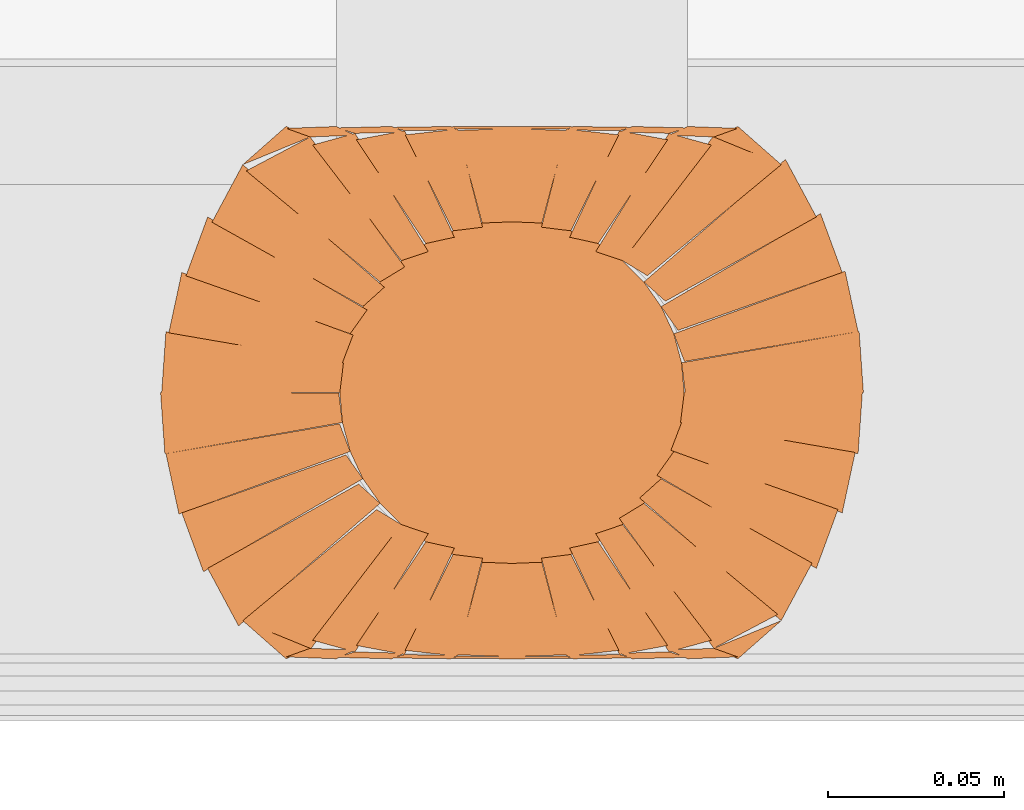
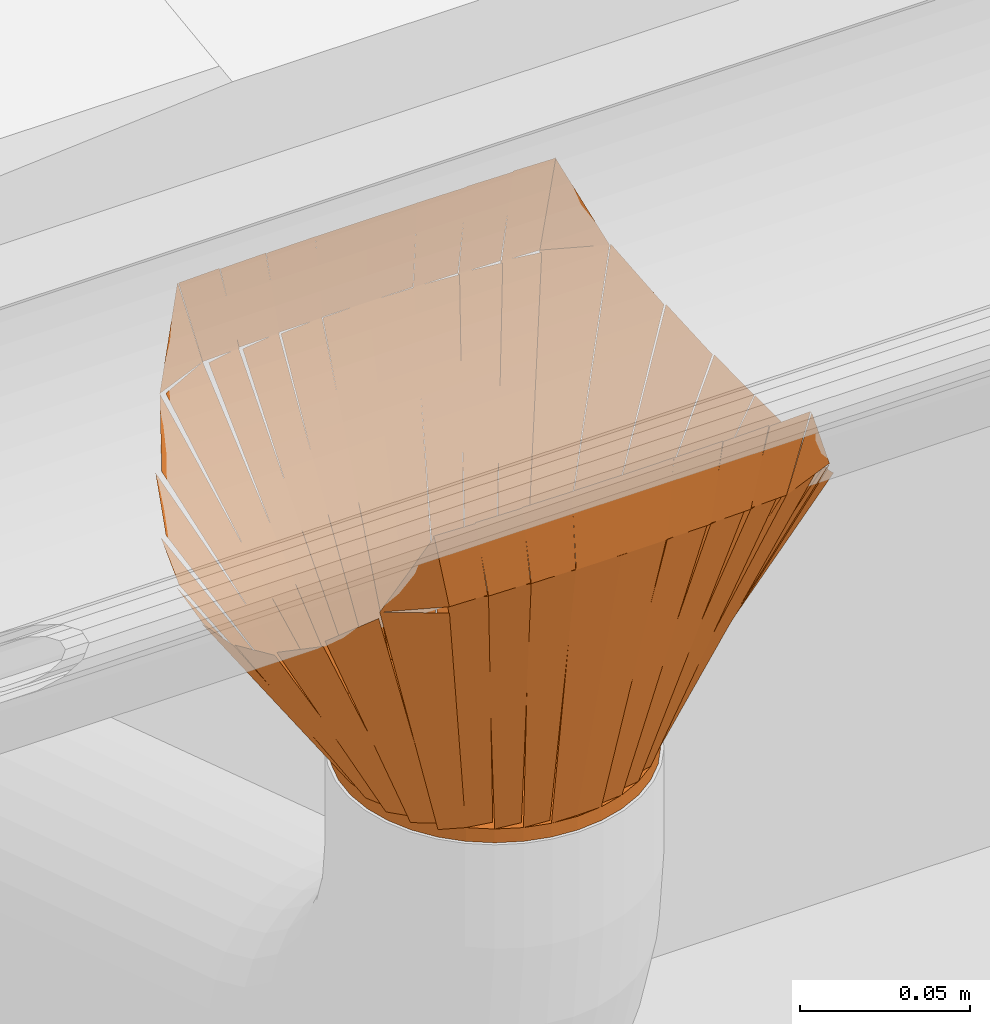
# One storey, part 28 of 43: 1 proxy.
"""IFC2X3 building model written with IfcOpenShell, lengths in millimetres."""

from ifc_helpers import new_model, si_unit, frame, origin_with_axes, place, context, project, spatial, faceted_brep, element, save


model = new_model("IFC2X3")

# Units and contexts
model_context = context("Model", 3, world=origin_with_axes())
ifc_project = project(units=[si_unit("LENGTHUNIT", "METRE", prefix="MILLI")], contexts=[model_context])

# Site, building, storey
site_placement = place(None, origin_with_axes())
site = spatial("IfcSite", under=ifc_project, at=site_placement, Name="Site", CompositionType="ELEMENT")
building_placement = place(site_placement, origin_with_axes())
building = spatial("IfcBuilding", under=site, at=building_placement, Name="?", CompositionType="ELEMENT")
storey_placement = place(building_placement, frame((0.0, 0.0, 5938.0), z_axis=(0.0, 0.0, 1.0), x_axis=(1.0, 0.0, 0.0)))
storey = spatial("IfcBuildingStorey", under=building, at=storey_placement, Name="Dachgeschoß", CompositionType="ELEMENT", Elevation=5938.0)

# Proxy
proxy_placement = place(None, origin_with_axes())
element("IfcBuildingElementProxy", 1, at=proxy_placement, inside=storey, Name="Dach02_Sump#001", ObjectType="sump", CompositionType="ELEMENT", context=model_context, shape_type="Brep", body=[
    faceted_brep([(9665.0, -7677.009765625, 6505.79443359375), (9715.69909783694, -7676.96774953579, 6580.93962337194), (9714.48080167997, -7694.37456599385, 6582.73663250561), (9663.95469623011, -7685.47654971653, 6505.99742441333), (9664.255859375, -7685.51904296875, 6505.79443359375), (9713.66477416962, -7694.02260897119, 6583.29570176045), (9709.96955863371, -7711.21224305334, 6588.73663108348), (9661.22887453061, -7693.41680896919, 6506.3535043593), (9662.044921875, -7693.76904296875, 6505.79443359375), (9708.7674041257, -7710.25000875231, 6589.59595129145), (9702.6025228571, -7727.01004264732, 6599.73663675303), (9657.23330283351, -7700.54800840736, 6506.65374850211), (9658.435546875, -7701.509765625, 6505.79443359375), (9701.3921029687, -7725.50609625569, 6600.66517917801), (9692.60474870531, -7741.88856568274, 6615.736631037), (9652.32580064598, -7707.00269628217, 6506.72298136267), (9653.5361328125, -7708.5068359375, 6505.79443359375), (9691.62805986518, -7740.11947794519, 6616.57727050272), (9673.42483265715, -7749.76293508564, 6615.73663044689), (9646.52025953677, -7712.77687912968, 6506.63507364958), (9647.4970703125, -7714.54638671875, 6505.79443359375), (9672.7389179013, -7747.47369281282, 6616.57347435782), (9660.66917038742, -7750.78708786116, 6615.73663420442), (9639.81401771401, -7717.15619170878, 6506.63127382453), (9640.5, -7719.4453125, 6505.79443359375), (9660.30450052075, -7748.96330484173, 6616.28910531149), (9646.55519984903, -7751.54171179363, 6615.7366356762), (9632.39480121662, -7721.2313055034, 6506.3469032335), (9632.7587890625, -7723.0546875, 6505.79443359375), (9646.42091446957, -7750.37303624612, 6616.04275099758), (9631.51308903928, -7752.00358695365, 6615.73663149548), (9624.37451405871, -7724.09703670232, 6506.10055309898), (9624.5087890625, -7725.265625, 6505.79443359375), (9631.4982433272, -7751.6022388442, 6615.83370153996), (9615.99998919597, -7752.1594249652, 6615.7366309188), (9615.98494357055, -7725.60843885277, 6505.89150420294), (9607.4912109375, -7725.265625, 6505.79443359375), (9616.01505642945, -7725.60843885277, 6505.89150420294), (9616.00001080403, -7752.1594249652, 6615.7366309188), (9600.5017566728, -7751.6022388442, 6615.83370153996), (9599.2412109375, -7723.0546875, 6505.79443359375), (9607.62548594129, -7724.09703670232, 6506.10055309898), (9600.48691096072, -7752.00358695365, 6615.73663149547), (9585.57908553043, -7750.37303624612, 6616.04275099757), (9591.5, -7719.4453125, 6505.79443359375), (9599.60519878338, -7721.2313055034, 6506.3469032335), (9585.44480015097, -7751.54171179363, 6615.7366356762), (9571.69549947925, -7748.96330484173, 6616.28910531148), (9584.5029296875, -7714.54638671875, 6505.79443359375), (9592.18598228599, -7717.15619170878, 6506.63127382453), (9571.33082961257, -7750.78708786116, 6615.73663420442), (9559.2610820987, -7747.47369281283, 6616.57347435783), (9584.5029296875, -7714.54638671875, 6505.79443359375), (9557.59835656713, -7751.53244267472, 6614.89599039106), (9539.39512935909, -7741.88898553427, 6615.73663044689), (9577.48705641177, -7710.27634352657, 6504.95379353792), (9578.4638671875, -7708.5068359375, 6505.79443359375), (9538.18491912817, -7743.39270533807, 6614.80808326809), (9529.39756486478, -7727.01023591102, 6599.73663140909), (9572.35412095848, -7703.01390528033, 6504.86588582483), (9573.564453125, -7701.509765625, 6505.79443359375), (9528.19523310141, -7727.97179986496, 6598.87732184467), (9522.03035183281, -7711.21176596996, 6588.7366363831), (9568.75283408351, -7694.7308001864, 6504.93511868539), (9569.955078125, -7693.76904296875, 6505.79443359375), (9521.21438791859, -7711.56448226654, 6588.17755842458), (9517.51918083, -7694.37494297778, 6582.7366349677), (9566.92808542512, -7685.87128188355, 6505.23535685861), (9567.744140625, -7685.51904296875, 6505.79443359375), (9517.21804143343, -7694.4171582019, 6582.5336459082), (9515.99974216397, -7677.01024322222, 6580.73663465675), (9566.69883993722, -7677.0522587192, 6505.59144481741), (9567.0, -7677.009765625, 6505.79443359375), (9516.30089679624, -7677.0517809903, 6580.93961803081), (9517.51919943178, -7659.64496540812, 6582.73663139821), (9568.04529745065, -7668.54308088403, 6505.99742015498), (9567.744140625, -7668.50146484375, 6505.79443359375), (9518.33524330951, -7659.99780535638, 6583.29571912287), (9522.03044049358, -7642.80816491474, 6588.73663588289), (9570.77114366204, -7660.60360535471, 6506.35351666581), (9569.955078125, -7660.2509765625, 6505.79443359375), (9523.23262029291, -7643.77001649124, 6589.59596421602), (9529.39737883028, -7627.00997522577, 6599.73663640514), (9574.76661936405, -7653.47201716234, 6506.65376173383), (9573.564453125, -7652.509765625, 6505.79443359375), (9530.60788212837, -7628.5134274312, 6600.66517290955), (9539.39525411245, -7612.13106388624, 6615.73663441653), (9579.6742815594, -7647.01682850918, 6506.72297220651), (9578.4638671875, -7645.51318359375, 6505.79443359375), (9540.37183544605, -7613.90061803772, 6616.5772624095), (9558.57506735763, -7604.25708315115, 6615.7366306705), (9585.47973513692, -7641.24311841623, 6506.63506533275), (9584.5029296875, -7639.4736328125, 6505.79443359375), (9559.260981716, -7606.54633724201, 6616.5734784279), (9571.3308295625, -7603.23293151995, 6615.73663476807), (9592.18598202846, -7636.86383842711, 6506.63127727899), (9591.5, -7634.57470703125, 6505.79443359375), (9571.69549947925, -7605.05671468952, 6616.28910531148), (9585.44480015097, -7602.47830773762, 6615.7366356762), (9599.60519878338, -7632.78871402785, 6506.3469032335), (9599.2412109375, -7630.96533203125, 6505.79443359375), (9585.57908553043, -7603.64698328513, 6616.04275099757), (9600.48691096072, -7602.0164325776, 6615.73663149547), (9607.62548594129, -7629.92298282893, 6506.10055309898), (9607.4912109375, -7628.75439453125, 6505.79443359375), (9600.5017566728, -7602.41778068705, 6615.83370153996), (9616.00001080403, -7601.86059456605, 6615.7366309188), (9616.01505642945, -7628.41158067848, 6505.89150420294), (9624.5087890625, -7628.75439453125, 6505.79443359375), (9615.98504331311, -7628.41158169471, 6505.89150445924), (9616.00008910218, -7601.86059390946, 6615.73663117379), (9631.49824324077, -7602.41778105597, 6615.83370203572), (9632.7587890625, -7630.96533203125, 6505.79443359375), (9624.3744153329, -7629.9229761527, 6506.10055124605), (9631.51298902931, -7602.01643257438, 6615.73663560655), (9646.42081592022, -7603.64697661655, 6616.04275325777), (9640.5, -7634.57470703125, 6505.79443359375), (9632.39481965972, -7632.78876123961, 6506.34688478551), (9646.55510018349, -7602.47840597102, 6615.73663578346), (9660.30442050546, -7605.05676005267, 6616.28908697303), (9647.4970703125, -7639.4736328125, 6505.79443359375), (9639.81399243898, -7636.86378505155, 6506.63129507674), (9660.66907036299, -7603.23293253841, 6615.73663264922), (9672.73889256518, -7606.5463849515, 6616.57349410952), (9647.4970703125, -7639.4736328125, 6505.79443359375), (9674.40164343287, -7602.48757685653, 6614.89599039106), (9692.6048706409, -7612.13103399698, 6615.73663044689), (9654.51294358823, -7643.74367600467, 6504.95379353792), (9653.5361328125, -7645.51318359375, 6505.79443359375), (9693.81508590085, -7610.6272951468, 6614.80807921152), (9702.60243226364, -7627.00968397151, 6599.73663630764), (9659.64588720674, -7651.00609461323, 6504.86587603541), (9658.435546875, -7652.509765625, 6505.79443359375), (9703.804754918, -7626.04764707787, 6598.87732511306), (9709.96954786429, -7642.80766642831, 6588.73663091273), (9663.24715398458, -7659.28874634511, 6504.93512814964), (9662.044921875, -7660.2509765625, 6505.79443359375), (9710.78552724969, -7642.45543169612, 6588.17755185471), (9714.48082378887, -7659.64507657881, 6582.73663560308), (9665.07192492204, -7668.14873100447, 6505.23534983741), (9664.255859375, -7668.5009765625, 6505.79443359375), (9714.78195856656, -7659.60286132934, 6582.5336459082), (9716.00025783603, -7677.00977630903, 6580.73663465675), (9665.30116006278, -7676.96776081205, 6505.59144481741), (9673.4248046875, -7749.7626953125, 6615.73681640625), (9692.60430531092, -7741.88879484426, 6615.73681640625), (9680.27870485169, -7752.74999532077, 6645.00681565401), (9666.0, -7752.75, 6645.00634765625), (9660.64840950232, -7750.25130511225, 6615.78586307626), (9673.42489986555, -7749.76269994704, 6615.73634729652), (9680.25850914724, -7752.21440517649, 6645.05586343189), (9650.2021484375, -7752.75, 6645.00634765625), (9646.54533147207, -7751.14458950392, 6615.7593924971), (9660.66884830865, -7750.78689999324, 6615.7363475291), (9665.99013123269, -7752.35298953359, 6645.02939262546), (9633.365234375, -7752.75, 6645.00634765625), (9631.51020009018, -7751.76003104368, 6615.74481863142), (9646.55563432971, -7751.54160002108, 6615.73634744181), (9650.19890002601, -7752.506231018, 6645.01481884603), (9616.0, -7752.75, 6645.00634765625), (9615.99961128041, -7752.0772640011, 6615.73823528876), (9631.51329980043, -7752.00380000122, 6615.73634736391), (9633.36441105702, -7752.66786399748, 6645.00823558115), (9600.486328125, -7752.00390625, 6615.73681640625), (9616.00001664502, -7752.07737024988, 6615.73870433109), (9615.99962792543, -7752.75010624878, 6645.00681669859), (9598.63521686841, -7752.66797024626, 6645.00870462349), (9585.4443359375, -7751.54150390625, 6615.73681640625), (9600.48977017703, -7751.75993492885, 6615.74528759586), (9598.63473589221, -7752.74990388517, 6645.00681662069), (9581.8010702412, -7752.50613490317, 6645.01528781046), (9571.3310546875, -7750.787109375, 6615.73681640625), (9585.45457152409, -7751.14479888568, 6615.75986137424), (9581.79775455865, -7752.75020938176, 6645.0068165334), (9566.00977176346, -7752.35319891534, 6645.02986150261), (9558.5751953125, -7749.7626953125, 6615.73681640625), (9571.35168575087, -7750.25130223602, 6615.7863320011), (9566.00009521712, -7752.74999529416, 6645.00681666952), (9551.74168600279, -7752.21440225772, 6645.05633226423), (9539.3955078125, -7741.888671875, 6615.73681640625), (9558.57500843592, -7749.76257234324, 6615.73681640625), (9551.72120828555, -7752.74987219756, 6645.00681601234), (9558.5751953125, -7604.25732421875, 6615.73681640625), (9539.39569539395, -7612.13132437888, 6615.73681640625), (9551.72139542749, -7601.27002445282, 6645.00681658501), (9566.0, -7601.27001953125, 6645.00634765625), (9571.35159032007, -7603.76871232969, 6615.78586309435), (9558.57500017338, -7604.25731946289, 6615.73634755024), (9551.74149077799, -7601.80561239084, 6645.05586320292), (9581.7978515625, -7601.27001953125, 6645.00634765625), (9585.45466852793, -7602.87543002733, 6615.75939249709), (9571.33115169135, -7603.23311953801, 6615.7363475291), (9566.00986876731, -7601.66702999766, 6645.02939262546), (9598.634765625, -7601.27001953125, 6645.00634765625), (9600.48989991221, -7602.25998782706, 6615.74481858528), (9585.44446566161, -7602.47841953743, 6615.73634741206), (9581.80119996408, -7601.51378783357, 6645.01481882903), (9616.0, -7601.27001953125, 6645.00634765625), (9616.00038871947, -7601.94275574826, 6615.73823528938), (9600.48670020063, -7602.01621952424, 6615.73634735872), (9598.63548894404, -7601.35215575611, 6645.00823558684), (9631.513671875, -7602.01611328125, 6615.73681640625), (9616.00008335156, -7601.94264953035, 6615.73870433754), (9616.00047207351, -7601.26991325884, 6645.00681670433), (9633.36488312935, -7601.35204951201, 6645.00870463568), (9646.5546875, -7602.478515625, 6615.73681640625), (9631.50925326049, -7602.26008460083, 6615.74528760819), (9633.36438754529, -7601.27011567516, 6645.00681667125), (9650.19805319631, -7601.51388465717, 6645.01528787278), (9660.6689453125, -7603.23291015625, 6615.73681640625), (9646.54542844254, -7602.87521945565, 6615.75986132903), (9650.20234541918, -7601.26981014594, 6645.00681662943), (9665.99022824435, -7601.66681942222, 6645.02986155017), (9673.4248046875, -7604.25732421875, 6615.73681640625), (9660.64821454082, -7603.76871708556, 6615.78633195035), (9665.99980486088, -7601.27002428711, 6645.00681651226), (9680.2583140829, -7601.8056171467, 6645.05633205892), (9692.6044921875, -7612.13134765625, 6615.73681640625), (9673.42499156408, -7604.25744718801, 6615.73681640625), (9680.27879171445, -7601.27014733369, 6645.00681601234), (9665.0, -7677.009765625, 6500.82421875), (9665.0, -7677.009765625, 6505.79421875), (9664.25559997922, -7685.51856580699, 6505.79421875), (9664.25559997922, -7685.51856580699, 6500.82421875), (9664.255859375, -7685.51904296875, 6500.82421875), (9664.255859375, -7685.51904296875, 6505.79421875), (9662.04515947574, -7693.7692429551, 6505.79421875), (9662.04515947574, -7693.7692429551, 6500.82421875), (9662.044921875, -7693.76904296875, 6500.82421875), (9662.044921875, -7693.76904296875, 6505.79421875), (9658.43522182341, -7701.51004288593, 6505.79421875), (9658.43522182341, -7701.51004288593, 6500.82421875), (9658.435546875, -7701.509765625, 6500.82421875), (9658.435546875, -7701.509765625, 6505.79421875), (9653.53654676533, -7708.50636547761, 6505.79421875), (9653.53654676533, -7708.50636547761, 6500.82421875), (9653.5361328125, -7708.5068359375, 6500.82421875), (9653.5361328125, -7708.5068359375, 6505.79421875), (9647.49653291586, -7714.54643583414, 6505.79421875), (9647.49653291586, -7714.54643583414, 6500.82421875), (9647.4970703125, -7714.54638671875, 6500.82421875), (9647.4970703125, -7714.54638671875, 6505.79421875), (9640.50047045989, -7719.44538682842, 6505.79421875), (9640.50047045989, -7719.44538682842, 6500.82421875), (9640.5, -7719.4453125, 6500.82421875), (9640.5, -7719.4453125, 6505.79421875), (9632.75900008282, -7723.05501255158, 6505.79421875), (9632.75900008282, -7723.05501255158, 6500.82421875), (9632.7587890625, -7723.0546875, 6500.82421875), (9632.7587890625, -7723.0546875, 6505.79421875), (9624.50858907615, -7725.26538739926, 6505.79421875), (9624.50858907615, -7725.26538739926, 6500.82421875), (9624.5087890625, -7725.265625, 6500.82421875), (9624.5087890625, -7725.265625, 6505.79421875), (9615.99998888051, -7726.01002502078, 6505.79421875), (9615.99998888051, -7726.01002502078, 6500.82421875), (9616.0, -7726.009765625, 6500.82421875), (9616.0, -7726.009765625, 6505.79421875), (9607.49119981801, -7725.26536560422, 6505.79421875), (9607.49119981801, -7725.26536560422, 6500.82421875), (9607.4912109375, -7725.265625, 6500.82421875), (9607.4912109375, -7725.265625, 6505.79421875), (9599.24101095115, -7723.05492510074, 6505.79421875), (9599.24101095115, -7723.05492510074, 6500.82421875), (9599.2412109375, -7723.0546875, 6500.82421875), (9599.2412109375, -7723.0546875, 6505.79421875), (9591.50021102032, -7719.44498744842, 6505.79421875), (9591.50021102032, -7719.44498744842, 6500.82421875), (9591.5, -7719.4453125, 6500.82421875), (9591.5, -7719.4453125, 6505.79421875), (9584.50340014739, -7714.54631239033, 6505.79421875), (9584.50340014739, -7714.54631239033, 6500.82421875), (9584.5029296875, -7714.54638671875, 6500.82421875), (9584.5029296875, -7714.54638671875, 6505.79421875), (9578.46332979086, -7708.50678682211, 6505.79421875), (9578.46332979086, -7708.50678682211, 6500.82421875), (9578.4638671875, -7708.5068359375, 6500.82421875), (9578.4638671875, -7708.5068359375, 6505.79421875), (9573.56486707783, -7701.51023608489, 6505.79421875), (9573.56486707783, -7701.51023608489, 6500.82421875), (9573.564453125, -7701.509765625, 6500.82421875), (9573.564453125, -7701.509765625, 6505.79421875), (9569.95475307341, -7693.76876570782, 6505.79421875), (9569.95475307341, -7693.76876570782, 6500.82421875), (9569.955078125, -7693.76904296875, 6500.82421875), (9569.955078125, -7693.76904296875, 6505.79421875), (9567.74437822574, -7685.5188429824, 6505.79421875), (9567.74437822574, -7685.5188429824, 6500.82421875), (9567.744140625, -7685.51904296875, 6500.82421875), (9567.744140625, -7685.51904296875, 6505.79421875), (9566.99974060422, -7677.01024278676, 6505.79421875), (9566.99974060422, -7677.01024278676, 6500.82421875), (9567.0, -7677.009765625, 6500.82421875), (9567.0, -7677.009765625, 6505.79421875), (9567.74439999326, -7668.50106570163, 6505.79421875), (9567.74439999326, -7668.50106570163, 6500.82421875), (9567.744140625, -7668.50146484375, 6500.82421875), (9567.744140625, -7668.50146484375, 6505.79421875), (9569.95484057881, -7660.25116493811, 6505.79421875), (9569.95484057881, -7660.25116493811, 6500.82421875), (9569.955078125, -7660.2509765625, 6500.82421875), (9569.955078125, -7660.2509765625, 6505.79421875), (9573.56467809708, -7652.509976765, 6505.79421875), (9573.56467809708, -7652.509976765, 6500.82421875), (9573.564453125, -7652.509765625, 6500.82421875), (9573.564453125, -7652.509765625, 6505.79421875), (9578.4635533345, -7645.51316562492, 6505.79421875), (9578.4635533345, -7645.51316562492, 6500.82421875), (9578.4638671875, -7645.51318359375, 6500.82421875), (9578.4638671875, -7645.51318359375, 6505.79421875), (9584.50346708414, -7639.47358369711, 6505.79421875), (9584.50346708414, -7639.47358369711, 6500.82421875), (9584.5029296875, -7639.4736328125, 6500.82421875), (9584.5029296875, -7639.4736328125, 6505.79421875), (9591.49952954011, -7634.57463270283, 6505.79421875), (9591.49952954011, -7634.57463270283, 6500.82421875), (9591.5, -7634.57470703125, 6500.82421875), (9591.5, -7634.57470703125, 6505.79421875), (9599.24099991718, -7630.96500697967, 6505.79421875), (9599.24099991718, -7630.96500697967, 6500.82421875), (9599.2412109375, -7630.96533203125, 6500.82421875), (9599.2412109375, -7630.96533203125, 6505.79421875), (9607.49141092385, -7628.75463213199, 6505.79421875), (9607.49141092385, -7628.75463213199, 6500.82421875), (9607.4912109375, -7628.75439453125, 6500.82421875), (9607.4912109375, -7628.75439453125, 6505.79421875), (9616.00001111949, -7628.00999451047, 6505.79421875), (9616.00001111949, -7628.00999451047, 6500.82421875), (9616.0, -7628.009765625, 6500.82421875), (9616.0, -7628.009765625, 6505.79421875), (9624.50869992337, -7628.75416561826, 6505.79421875), (9624.50869992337, -7628.75416561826, 6500.82421875), (9624.5087890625, -7628.75439453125, 6500.82421875), (9624.50877656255, -7628.75444118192, 6505.79421874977), (9632.75908919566, -7630.96509455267, 6505.79421875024), (9632.75907669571, -7630.96504120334, 6500.82421874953), (9632.7587890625, -7630.96484375, 6500.82421875), (9632.75880821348, -7630.96490268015, 6505.79421875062), (9640.49978917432, -7634.57454363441, 6505.79421875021), (9640.49980832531, -7634.57450256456, 6500.82421875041), (9640.5, -7634.57470703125, 6500.82421875), (9640.5, -7634.57470703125, 6505.79421875), (9647.49660000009, -7639.47380724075, 6505.79421875), (9647.49660000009, -7639.47380724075, 6500.82421875), (9647.4970703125, -7639.4736328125, 6500.82421875), (9647.4970703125, -7639.4736328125, 6505.79421875), (9653.53667020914, -7645.51323270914, 6505.79421875), (9653.53667020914, -7645.51323270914, 6500.82421875), (9653.5361328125, -7645.51318359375, 6500.82421875), (9653.5361328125, -7645.51318359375, 6505.79421875), (9658.43513292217, -7652.50978344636, 6505.79421875), (9658.43513292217, -7652.50978344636, 6500.82421875), (9658.435546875, -7652.509765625, 6500.82421875), (9658.435546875, -7652.509765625, 6505.79421875), (9662.04524692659, -7660.25076554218, 6505.79421875), (9662.04524692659, -7660.25076554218, 6500.82421875), (9662.044921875, -7660.2509765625, 6500.82421875), (9662.044921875, -7660.2509765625, 6505.79421875), (9664.25562177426, -7668.50117654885, 6505.79421875), (9664.25562177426, -7668.50117654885, 6500.82421875), (9664.255859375, -7668.5009765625, 6500.82421875), (9664.255859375, -7668.5009765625, 6505.79421875), (9665.00025939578, -7677.00977674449, 6505.79421875), (9665.00025939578, -7677.00977674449, 6500.82421875), (9662.044921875, -7660.2509765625, 6500.82421875), (9665.000021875, -7677.0099765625, 6500.82421875), (9653.536221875, -7645.5133765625, 6500.82421875), (9658.435221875, -7652.5099765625, 6500.82421875), (9653.5361328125, -7645.51318359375, 6500.82421875), (9624.5086328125, -7628.75418359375, 6500.82421875), (9640.4999328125, -7634.57448359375, 6500.82421875), (9647.4965328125, -7639.47358359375, 6500.82421875), (9640.5, -7634.57470703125, 6500.82421875), (9624.5087, -7628.75440703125, 6500.82421875), (9632.759, -7630.96500703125, 6500.82421875), (9624.5087890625, -7628.75439453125, 6500.82421875), (9591.5000890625, -7634.57479453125, 6500.82421875), (9607.4912890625, -7628.75439453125, 6500.82421875), (9616.0000890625, -7628.00999453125, 6500.82421875), (9607.4912109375, -7628.75439453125, 6500.82421875), (9591.5000109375, -7634.57479453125, 6500.82421875), (9599.2410109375, -7630.96509453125, 6500.82421875), (9591.5, -7634.57470703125, 6500.82421875), (9569.9551, -7660.25090703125, 6500.82421875), (9578.4638, -7645.51330703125, 6500.82421875), (9584.5034, -7639.47370703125, 6500.82421875), (9578.4638671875, -7645.51318359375, 6500.82421875), (9569.9551671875, -7660.25078359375, 6500.82421875), (9573.5647671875, -7652.50978359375, 6500.82421875), (9624.5087890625, -7628.75439453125, 6500.82421875), (9653.5362890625, -7708.50659453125, 6500.82421875), (9569.9551890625, -7660.25099453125, 6500.82421875), (9591.5000890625, -7634.57479453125, 6500.82421875), (9569.955078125, -7660.2509765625, 6500.82421875), (9569.955078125, -7693.7689765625, 6500.82421875), (9566.999978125, -7677.0099765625, 6500.82421875), (9567.744378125, -7668.5012765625, 6500.82421875), (9567.0, -7677.009765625, 6500.82421875), (9569.9551, -7693.768765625, 6500.82421875), (9567.7444, -7685.518565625, 6500.82421875), (9569.955078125, -7693.76904296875, 6500.82421875), (9591.499978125, -7719.44524296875, 6500.82421875), (9578.463778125, -7708.50664296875, 6500.82421875), (9573.564778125, -7701.51004296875, 6500.82421875), (9578.4638671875, -7708.5068359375, 6500.82421875), (9591.5000671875, -7719.4454359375, 6500.82421875), (9584.5034671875, -7714.5464359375, 6500.82421875), (9569.955078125, -7660.2509765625, 6500.82421875), (9653.536178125, -7708.5065765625, 6500.82421875), (9591.499978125, -7719.4451765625, 6500.82421875), (9569.955078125, -7693.7689765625, 6500.82421875), (9591.5, -7719.4453125, 6500.82421875), (9624.5088, -7725.2657125, 6500.82421875), (9607.4912, -7725.2657125, 6500.82421875), (9599.241, -7723.0550125, 6500.82421875), (9607.4912109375, -7725.265625, 6500.82421875), (9624.5088109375, -7725.265625, 6500.82421875), (9616.0000109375, -7726.010025, 6500.82421875), (9624.5087890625, -7725.265625, 6500.82421875), (9653.5361890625, -7708.506625, 6500.82421875), (9640.4999890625, -7719.445225, 6500.82421875), (9632.7589890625, -7723.054925, 6500.82421875), (9640.5, -7719.4453125, 6500.82421875), (9653.5362, -7708.5067125, 6500.82421875), (9647.4966, -7714.5463125, 6500.82421875), (9591.5, -7719.4453125, 6500.82421875), (9653.5362, -7708.5067125, 6500.82421875), (9624.5088, -7725.2657125, 6500.82421875), (9653.5361328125, -7708.5068359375, 6500.82421875), (9664.9999328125, -7677.0102359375, 6500.82421875), (9662.0448328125, -7693.7692359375, 6500.82421875), (9658.4351328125, -7701.5102359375, 6500.82421875), (9662.044921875, -7693.76904296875, 6500.82421875), (9665.000021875, -7677.01004296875, 6500.82421875), (9664.255621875, -7685.51884296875, 6500.82421875), (9624.5087890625, -7628.75439453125, 6500.82421875), (9653.5362890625, -7645.51339453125, 6500.82421875), (9665.0000890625, -7677.00999453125, 6500.82421875), (9653.5362890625, -7708.50659453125, 6500.82421875), (9664.255859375, -7668.5009765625, 6500.82421875), (9665.000259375, -7677.0097765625, 6500.82421875), (9662.045159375, -7660.2507765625, 6500.82421875), (9664.255859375, -7685.51904296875, 6505.79443359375), (9664.255859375, -7668.50144296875, 6505.79443359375), (9658.435459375, -7701.51024296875, 6505.79443359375), (9662.045159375, -7693.76924296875, 6505.79443359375), (9658.435546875, -7701.509765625, 6505.79443359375), (9632.759346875, -7723.054665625, 6505.79443359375), (9647.496946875, -7714.545965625, 6505.79443359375), (9653.536546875, -7708.506365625, 6505.79443359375), (9647.4970703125, -7714.54638671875, 6505.79443359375), (9632.7594703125, -7723.05508671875, 6505.79443359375), (9640.5004703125, -7719.44538671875, 6505.79443359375), (9632.7587890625, -7723.0546875, 6505.79443359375), (9599.2407890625, -7723.0546875, 6505.79443359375), (9615.9997890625, -7726.0097875, 6505.79443359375), (9624.5085890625, -7725.2653875, 6505.79443359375), (9616.0, -7726.009765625, 6505.79443359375), (9599.241, -7723.054665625, 6505.79443359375), (9607.4912, -7725.265365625, 6505.79443359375), (9599.2412109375, -7723.0546875, 6505.79443359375), (9573.5650109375, -7701.5097875, 6505.79443359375), (9584.5036109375, -7714.5459875, 6505.79443359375), (9591.5002109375, -7719.4449875, 6505.79443359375), (9584.5029296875, -7714.54638671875, 6505.79443359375), (9573.5643296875, -7701.51018671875, 6505.79443359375), (9578.4633296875, -7708.50678671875, 6505.79443359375), (9632.7587890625, -7723.0546875, 6505.79443359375), (9647.4963890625, -7639.4735875, 6505.79443359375), (9573.5645890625, -7701.5097875, 6505.79443359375), (9599.2407890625, -7723.0546875, 6505.79443359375), (9573.564453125, -7701.509765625, 6505.79443359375), (9567.744053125, -7668.501065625, 6505.79443359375), (9567.744053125, -7685.518565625, 6505.79443359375), (9569.954753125, -7693.768765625, 6505.79443359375), (9567.744140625, -7685.51904296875, 6505.79443359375), (9567.744140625, -7668.50154296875, 6505.79443359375), (9566.999740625, -7677.01024296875, 6505.79443359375), (9567.744140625, -7668.50146484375, 6505.79443359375), (9584.503140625, -7639.47396484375, 6505.79443359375), (9573.564440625, -7652.51016484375, 6505.79443359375), (9569.954840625, -7660.25116484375, 6505.79443359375), (9573.564453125, -7652.509765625, 6505.79443359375), (9584.503153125, -7639.473565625, 6505.79443359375), (9578.463553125, -7645.513165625, 6505.79443359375), (9573.564453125, -7701.509765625, 6505.79443359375), (9647.496253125, -7639.473565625, 6505.79443359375), (9584.503053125, -7639.473565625, 6505.79443359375), (9567.744053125, -7668.501065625, 6505.79443359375), (9584.5029296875, -7639.4736328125, 6505.79443359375), (9615.9995296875, -7628.0098328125, 6505.79443359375), (9599.2405296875, -7630.9649328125, 6505.79443359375), (9591.4995296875, -7634.5746328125, 6505.79443359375), (9599.2412109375, -7630.96533203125, 6505.79443359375), (9616.0002109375, -7628.01023203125, 6505.79443359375), (9607.4914109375, -7628.75463203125, 6505.79443359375), (9616.0, -7628.009765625, 6505.79443359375), (9647.4966, -7639.473565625, 6505.79443359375), (9632.759, -7630.964865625, 6505.79443359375), (9624.5087, -7628.754165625, 6505.79443359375), (9632.7587890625, -7630.96533203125, 6505.79443359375), (9647.4963890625, -7639.47403203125, 6505.79443359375), (9640.4997890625, -7634.57493203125, 6505.79443359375), (9584.5029296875, -7639.4736328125, 6505.79443359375), (9647.4961296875, -7639.4736328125, 6505.79443359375), (9615.9995296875, -7628.0098328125, 6505.79443359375), (9647.4970703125, -7639.4736328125, 6505.79443359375), (9664.2560703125, -7668.5010328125, 6505.79443359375), (9658.4356703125, -7652.5098328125, 6505.79443359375), (9653.5366703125, -7645.5132328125, 6505.79443359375), (9658.435546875, -7652.509765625, 6505.79443359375), (9664.255946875, -7668.500965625, 6505.79443359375), (9662.045246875, -7660.250765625, 6505.79443359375), (9632.7587890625, -7723.0546875, 6505.79443359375), (9658.4349890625, -7701.5097875, 6505.79443359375), (9664.2553890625, -7668.5009875, 6505.79443359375), (9647.4963890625, -7639.4735875, 6505.79443359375), (9665.0, -7677.009765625, 6505.79443359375), (9664.2556, -7668.500965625, 6505.79443359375), (9664.2556, -7685.518565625, 6505.79443359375)], [[[0, 1, 2, 3]], [[4, 5, 6, 7]], [[8, 9, 10, 11]], [[12, 13, 14, 15]], [[16, 17, 18, 19]], [[20, 21, 22, 23]], [[24, 25, 26, 27]], [[28, 29, 30, 31]], [[32, 33, 34, 35]], [[36, 37, 38, 39]], [[40, 41, 42, 43]], [[44, 45, 46, 47]], [[48, 49, 50, 51]], [[52, 53, 54, 55]], [[56, 57, 58, 59]], [[60, 61, 62, 63]], [[64, 65, 66, 67]], [[68, 69, 70, 71]], [[72, 73, 74, 75]], [[76, 77, 78, 79]], [[80, 81, 82, 83]], [[84, 85, 86, 87]], [[88, 89, 90, 91]], [[92, 93, 94, 95]], [[96, 97, 98, 99]], [[100, 101, 102, 103]], [[104, 105, 106, 107]], [[108, 109, 110, 111]], [[112, 113, 114, 115]], [[116, 117, 118, 119]], [[120, 121, 122, 123]], [[124, 125, 126, 127]], [[128, 129, 130, 131]], [[132, 133, 134, 135]], [[136, 137, 138, 139]], [[140, 141, 142, 143]], [[144, 145, 146]], [[147, 148, 149, 150]], [[151, 152, 153, 154]], [[155, 156, 157, 158]], [[159, 160, 161, 162]], [[163, 164, 165, 166]], [[167, 168, 169, 170]], [[171, 172, 173, 174]], [[175, 176, 177, 178]], [[179, 180, 181]], [[182, 183, 184]], [[185, 186, 187, 188]], [[189, 190, 191, 192]], [[193, 194, 195, 196]], [[197, 198, 199, 200]], [[201, 202, 203, 204]], [[205, 206, 207, 208]], [[209, 210, 211, 212]], [[213, 214, 215, 216]], [[217, 218, 219]], [[220, 221, 222, 223]], [[224, 225, 226, 227]], [[228, 229, 230, 231]], [[232, 233, 234, 235]], [[236, 237, 238, 239]], [[240, 241, 242, 243]], [[244, 245, 246, 247]], [[248, 249, 250, 251]], [[252, 253, 254, 255]], [[256, 257, 258, 259]], [[260, 261, 262, 263]], [[264, 265, 266, 267]], [[268, 269, 270, 271]], [[272, 273, 274, 275]], [[276, 277, 278, 279]], [[280, 281, 282, 283]], [[284, 285, 286, 287]], [[288, 289, 290, 291]], [[292, 293, 294, 295]], [[296, 297, 298, 299]], [[300, 301, 302, 303]], [[304, 305, 306, 307]], [[308, 309, 310, 311]], [[312, 313, 314, 315]], [[316, 317, 318, 319]], [[320, 321, 322, 323]], [[324, 325, 326, 327]], [[328, 329, 330, 331]], [[332, 333, 334, 335]], [[336, 337, 338, 339]], [[340, 341, 342, 343]], [[344, 345, 346, 347]], [[348, 349, 350, 351]], [[352, 353, 354, 355]], [[356, 357, 358, 359]], [[360, 361, 362, 363]], [[364, 365, 366, 367]], [[368, 369, 370, 371]], [[372, 373, 374]], [[375, 376, 377, 378]], [[379, 380, 381]], [[382, 383, 384, 385]], [[386, 387, 388]], [[389, 390, 391, 392]], [[393, 394, 395, 396]], [[397, 398, 399]], [[400, 401, 402, 403]], [[404, 405, 406]], [[407, 408, 409, 410]], [[411, 412, 413, 414]], [[415, 416, 417]], [[418, 419, 420, 421]], [[422, 423, 424]], [[425, 426, 427]], [[428, 429, 430, 431]], [[432, 433, 434]], [[435, 436, 437, 438]], [[439, 440, 441]], [[442, 443, 444, 445]], [[446, 447, 448, 449]], [[450, 451, 452]], [[453, 454, 455, 456]], [[457, 458, 459]], [[460, 461, 462, 463]], [[464, 465, 466]], [[467, 468, 469, 470]], [[471, 472, 473, 474]], [[475, 476, 477]], [[478, 479, 480, 481]], [[482, 483, 484]], [[485, 486, 487, 488]], [[489, 490, 491, 492]], [[493, 494, 495]], [[496, 497, 498, 499]], [[500, 501, 502]], [[503, 504, 505]], [[506, 507, 508, 509]], [[510, 511, 512]], [[513, 514, 515, 516]], [[517, 518, 519]]]),
])

save(model, "model.ifc")
